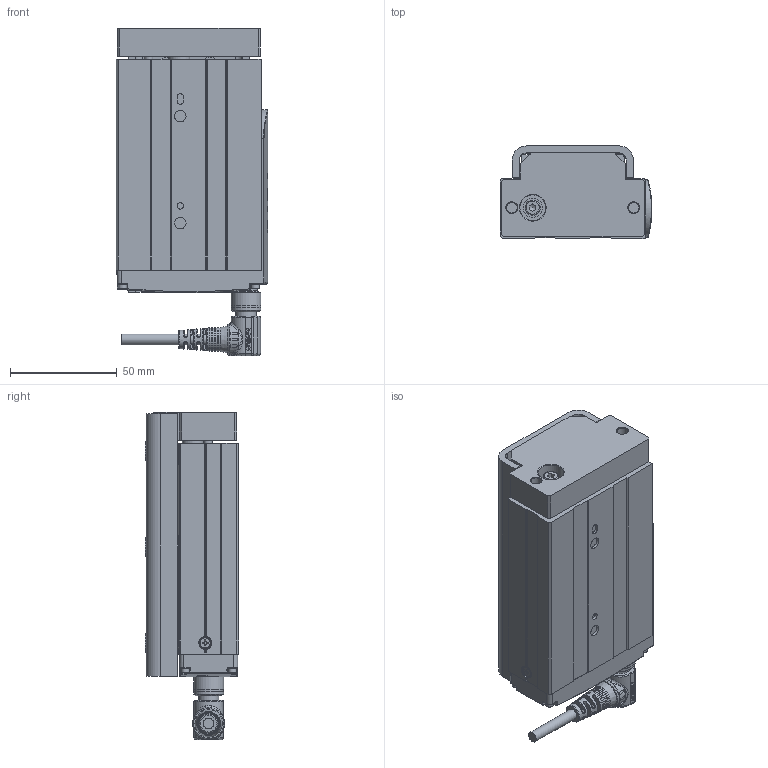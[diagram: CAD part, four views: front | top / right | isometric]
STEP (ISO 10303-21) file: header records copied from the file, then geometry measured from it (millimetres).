
FILE_DESCRIPTION(/* description */ ('STEP AP203'),/* implementation_level */ '2;1');
FILE_NAME(/* name */ 'D:\暫\2025.02.06 CSG 3D\CSG25\CSG25-S50-WR.stp',/* time_stamp */ '2025-02-08T09:51:19+08:00',/* author */ ('T10033'),/* organization */ (''),/* preprocessor_version */ 'ST-DEVELOPER v18.1',/* originating_system */ 'Autodesk Inventor 2020',/* authorisation */ '');
FILE_SCHEMA (('CONFIG_CONTROL_DESIGN'));
Products named in the file (20): CSG25-50行程-180接頭-完整組合; 22024-000496; plain washer 10673 type snl_iso_ISO 10673-4.55-S; 22035-000061(G4ªo¯]); countersunk flat head cross recess screw_iso_ISO 7046-1 - M2.5 x 4 - 
Z - 4N; plain washer 10673 type snl_iso_ISO 10673-2.75-S; socket head cap screw_iso_ISO 4762 M2.5 x 5 - 5N; ©T©wªO-·¥­­¾×ª
O4-M2¤ú; socket head cap screw_iso_ISO 4762 M2.5 x 6 - 6N; socket head cap screw_iso_ISO 4762 M2.5 x 8 - 8N; ¶ì½¦ºÝ»-L¼Ë¦¡
(TOYO); socket head cap screw_iso_ISO 4762 M2 x 12 - 12N; M12 -14PIN  ªOºÝ-²Ä¤@ºØ
³W®æ; CSG25-50¥»Åé3ª©-ªo¤Õ
½Õ¾ã¨¤«×; 12003-000221-­×§ï; CSG25-Carriage-newtype; CNS 3932 - M 4 x 0.7 x 12; CNS 4558 - M5 x 0.8 x 12; Solid1-2; M12-14PIN 線端90度接頭-05中繼線
Assembly tree (31 placements, depth 2):
  CSG25-50行程-180接頭-完整組合
    22024-000496
    plain washer 10673 type snl_iso_ISO 10673-4.55-S
    22035-000061(G4ªo¯])
    socket head cap screw_iso_ISO 4762 M2.5 x 8 - 8N  x8
    countersunk flat head cross recess screw_iso_ISO 7046-1 - M2.5 x 4 - 
Z - 4N
    plain washer 10673 type snl_iso_ISO 10673-2.75-S
    socket head cap screw_iso_ISO 4762 M2.5 x 5 - 5N
    ©T©wªO-·¥­­¾×ª
O4-M2¤ú
    socket head cap screw_iso_ISO 4762 M2.5 x 6 - 6N  x2
    ¶ì½¦ºÝ»-L¼Ë¦¡
(TOYO)
    socket head cap screw_iso_ISO 4762 M2 x 12 - 12N  x4
    M12 -14PIN  ªOºÝ-²Ä¤@ºØ
³W®æ
    CSG25-50¥»Åé3ª©-ªo¤Õ
½Õ¾ã¨¤«×
    12003-000221-­×§ï
    CSG25-Carriage-newtype
    CNS 3932 - M 4 x 0.7 x 12
    CNS 4558 - M5 x 0.8 x 12  x2
    Solid1-2
    M12-14PIN 線端90度接頭-05中繼線
Bounding box: 71 x 43.5 x 153 mm (x, y, z)
Volume: 272176 mm3; surface area: 80777.9 mm2
Topology: 45 solids, 54 shells, 2996 faces, 8239 edges, 5480 vertices
Faces by surface type: plane 1435, bspline 647, cylinder 500, cone 282, torus 125, sphere 7
Full cylindrical faces by diameter (mm): 0.6 x14, 0.65 x14, 1 x14, 1.6 x4, 2 x4, 2.05 x3, 2.5 x13, 2.75 x1, 2.9 x2, 3 x3, 3.8 x4, 4 x1, 4.134 x8, 4.5 x11, 4.55 x1, 4.7 x1, 4.95 x1, 5 x6, 5.2 x1, 5.3 x2, 5.4 x4, 5.5 x4, 6 x4, 7 x1, 8 x1, 8.9 x1, 9 x13, 9.5 x2, 9.6 x1, 10 x6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
Entity records: 115825 total; most frequent: CARTESIAN_POINT 44655, ORIENTED_EDGE 15199, DIRECTION 13363, EDGE_CURVE 7618, VERTEX_POINT 5093, AXIS2_PLACEMENT_3D 4682, LINE 3999, VECTOR 3999
